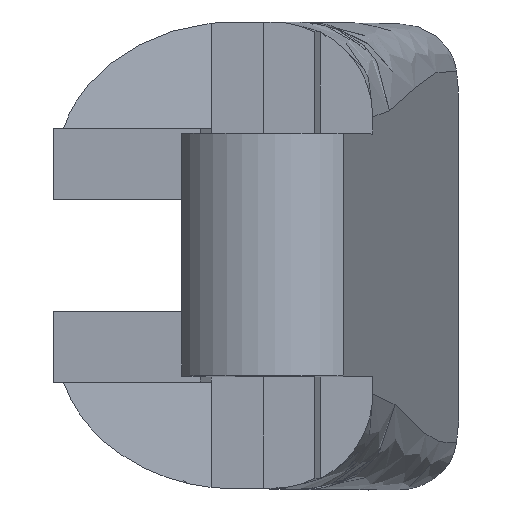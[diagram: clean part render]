
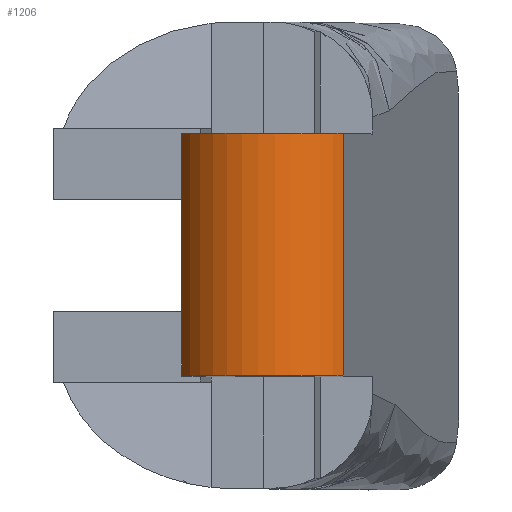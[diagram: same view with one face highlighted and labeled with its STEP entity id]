
A CAD part, top view. The second image highlights one B-rep face of the part: STEP entity #1206.
In plain terms, the highlighted cylindrical face has radius 5.037 mm (diameter 10.075 mm), a partial arc.
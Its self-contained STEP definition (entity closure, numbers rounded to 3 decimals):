
#114 = VERTEX_POINT ( 'NONE', #737 ) ;
#165 = CYLINDRICAL_SURFACE ( 'NONE', #1703, 5.037 ) ;
#481 = VECTOR ( 'NONE', #756, 1000. ) ;
#555 = CARTESIAN_POINT ( 'NONE',  ( 12.045, -7.742, 42.163 ) ) ;
#580 = VECTOR ( 'NONE', #1728, 1000. ) ;
#620 = CIRCLE ( 'NONE', #1585, 5.037 ) ;
#632 = EDGE_CURVE ( 'NONE', #2046, #2431, #2641, .T. ) ;
#659 = ORIENTED_EDGE ( 'NONE', *, *, #2502, .T. ) ;
#671 = CARTESIAN_POINT ( 'NONE',  ( 7.931, -1.242, 39.256 ) ) ;
#687 = EDGE_CURVE ( 'NONE', #114, #1515, #620, .T. ) ;
#737 = CARTESIAN_POINT ( 'NONE',  ( 3.377, -1.242, 41.409 ) ) ;
#756 = DIRECTION ( 'NONE',  ( 0., -1., 0. ) ) ;
#797 = CARTESIAN_POINT ( 'NONE',  ( 7.931, -14.242, 39.256 ) ) ;
#811 = DIRECTION ( 'NONE',  ( 0., 1., 0. ) ) ;
#856 = DIRECTION ( 'NONE',  ( 1., 0., 0. ) ) ;
#864 = DIRECTION ( 'NONE',  ( 0., -1., 0. ) ) ;
#888 = CARTESIAN_POINT ( 'NONE',  ( 12.045, -14.242, 42.163 ) ) ;
#1055 = LINE ( 'NONE', #1738, #580 ) ;
#1070 = CARTESIAN_POINT ( 'NONE',  ( 7.931, -7.742, 39.256 ) ) ;
#1176 = ORIENTED_EDGE ( 'NONE', *, *, #632, .T. ) ;
#1192 = FACE_OUTER_BOUND ( 'NONE', #2109, .T. ) ;
#1206 = ADVANCED_FACE ( 'NONE', ( #1192 ), #165, .T. ) ;
#1424 = ORIENTED_EDGE ( 'NONE', *, *, #687, .F. ) ;
#1449 = DIRECTION ( 'NONE',  ( -1., 0., 0. ) ) ;
#1468 = DIRECTION ( 'NONE',  ( 0., 1., 0. ) ) ;
#1515 = VERTEX_POINT ( 'NONE', #2406 ) ;
#1539 = EDGE_CURVE ( 'NONE', #1515, #2431, #1832, .T. ) ;
#1585 = AXIS2_PLACEMENT_3D ( 'NONE', #671, #1468, #1449 ) ;
#1703 = AXIS2_PLACEMENT_3D ( 'NONE', #1070, #864, #856 ) ;
#1728 = DIRECTION ( 'NONE',  ( 0., -1., 0. ) ) ;
#1738 = CARTESIAN_POINT ( 'NONE',  ( 3.377, -7.742, 41.409 ) ) ;
#1832 = LINE ( 'NONE', #555, #481 ) ;
#1861 = DIRECTION ( 'NONE',  ( -1., 0., 0. ) ) ;
#2045 = AXIS2_PLACEMENT_3D ( 'NONE', #797, #811, #1861 ) ;
#2046 = VERTEX_POINT ( 'NONE', #2356 ) ;
#2109 = EDGE_LOOP ( 'NONE', ( #1176, #2172, #1424, #659 ) ) ;
#2172 = ORIENTED_EDGE ( 'NONE', *, *, #1539, .F. ) ;
#2356 = CARTESIAN_POINT ( 'NONE',  ( 3.377, -14.242, 41.409 ) ) ;
#2406 = CARTESIAN_POINT ( 'NONE',  ( 12.045, -1.242, 42.163 ) ) ;
#2431 = VERTEX_POINT ( 'NONE', #888 ) ;
#2502 = EDGE_CURVE ( 'NONE', #114, #2046, #1055, .T. ) ;
#2641 = CIRCLE ( 'NONE', #2045, 5.037 ) ;
